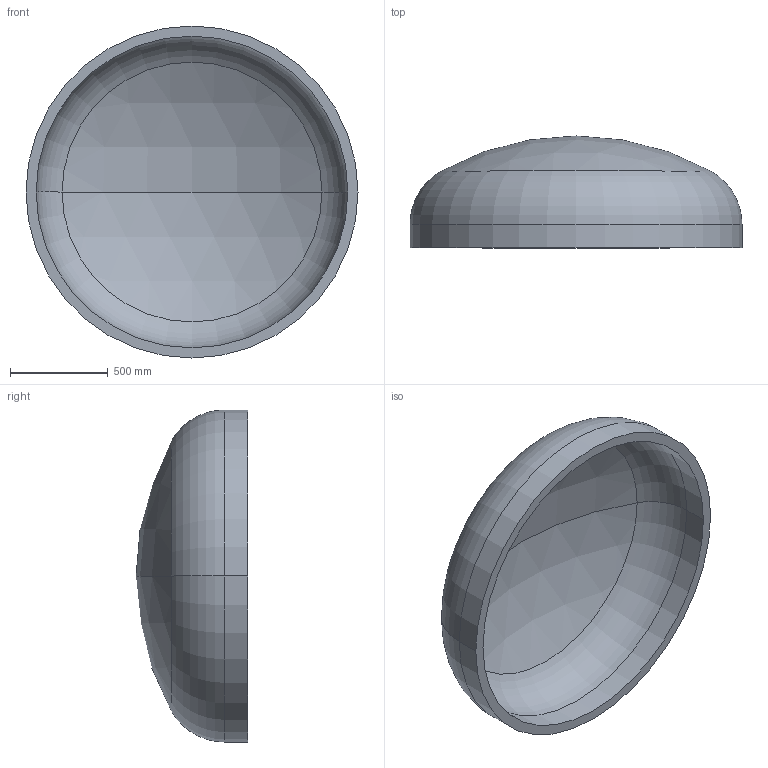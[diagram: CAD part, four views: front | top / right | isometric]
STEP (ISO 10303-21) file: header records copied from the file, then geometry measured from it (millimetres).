
FILE_DESCRIPTION (( 'STEP AP203' ), '1' );
FILE_NAME ('DIN 28013 Korbbogenform_-_Boden DIN 28013 - 1700 x 120 - I - s=52.step', '2016-07-01T11:53:32', ( '' ), ( '' ), 'SwSTEP 2.0', 'SolidWorks 2013', '' );
FILE_SCHEMA (( 'CONFIG_CONTROL_DESIGN' ));
Length unit declared in the file: millimetre
Products named in the file (1): DIN 28013 Korbbogenform_-_Boden DIN 28013 - 1700 x 120 - I - s=52
Bounding box: 1700 x 572.54 x 1700 mm (x, y, z)
Volume: 189158462.5 mm3; surface area: 7550208.5 mm2
Topology: 1 solids, 1 shells, 13 faces, 24 edges, 14 vertices
Faces by surface type: torus 4, cylinder 4, sphere 4, plane 1
Entity records: 407 total; most frequent: DIRECTION 72, CARTESIAN_POINT 52, ORIENTED_EDGE 48, AXIS2_PLACEMENT_3D 34, EDGE_CURVE 24, CIRCLE 20, EDGE_LOOP 14, VERTEX_POINT 14
